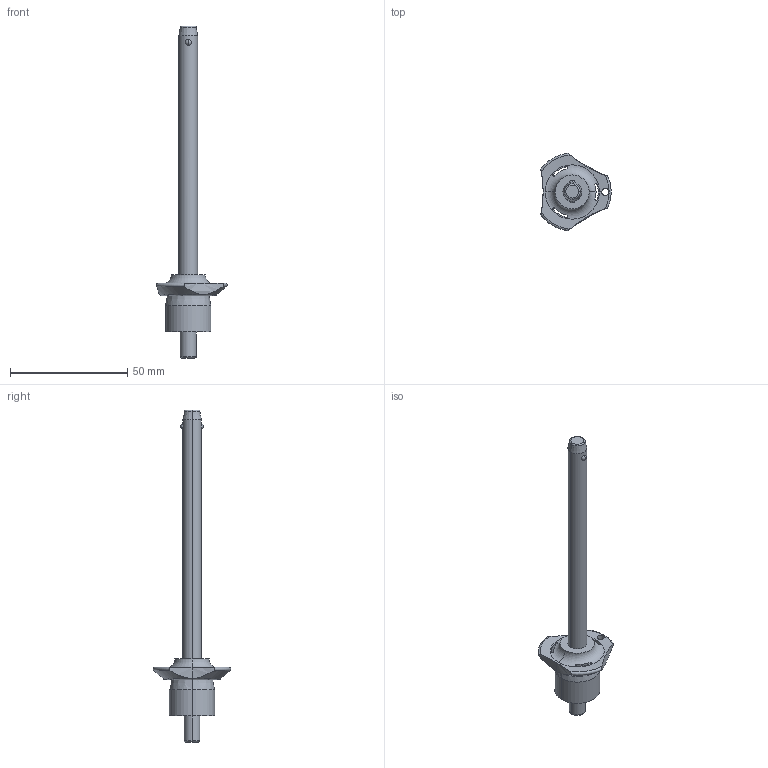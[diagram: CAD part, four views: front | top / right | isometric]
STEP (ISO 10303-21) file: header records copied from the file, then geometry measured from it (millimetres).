
FILE_DESCRIPTION (( 'STEP AP203' ), '1' );
FILE_NAME ('QR1734.M08-100-S.step', '2025-11-12T14:15:05', ( '' ), ( '' ), 'SwSTEP 2.0', 'SolidWorks 2019', '' );
FILE_SCHEMA (( 'CONFIG_CONTROL_DESIGN' ));
Length unit declared in the file: millimetre
Products named in the file (1): QR1734.M08-100-S
Bounding box: 30 x 33.01 x 141.5 mm (x, y, z)
Volume: 13742.2 mm3; surface area: 6004.2 mm2
Topology: 1 solids, 1 shells, 57 faces, 145 edges, 90 vertices
Faces by surface type: cylinder 28, torus 11, cone 8, sphere 6, plane 4
Entity records: 2228 total; most frequent: CARTESIAN_POINT 773, DIRECTION 295, ORIENTED_EDGE 290, EDGE_CURVE 145, AXIS2_PLACEMENT_3D 130, VERTEX_POINT 90, CIRCLE 72, EDGE_LOOP 65
